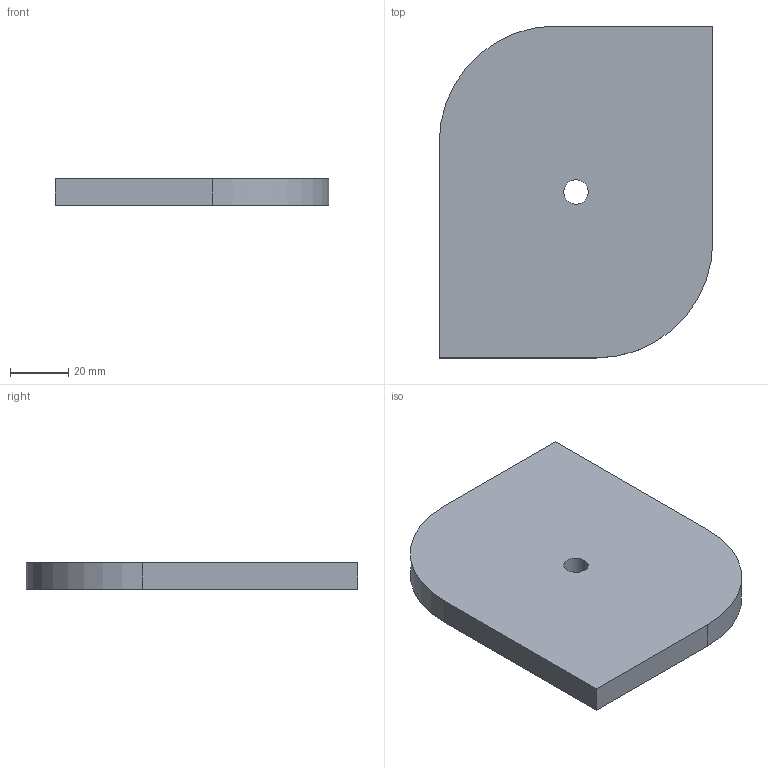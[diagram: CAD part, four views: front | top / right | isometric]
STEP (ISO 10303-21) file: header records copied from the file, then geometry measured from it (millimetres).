
FILE_DESCRIPTION(('CATIA V5 STEP Exchange'),'2;1');
FILE_NAME('C:\_Andres\UNIVERSIDAD\IQS\ASIGNATURAS\DAO\EXF\EXF-15161c\1original\Casals_Vilar_Ej01-plano_v4.stp','2016-03-04T14:59:43+00:00',('none'),('none'),'CATIA Version 5 Release 20 SP 1 (IN-10)','CATIA V5 STEP AP203','none');
FILE_SCHEMA(('CONFIG_CONTROL_DESIGN'));
Length unit declared in the file: millimetre
Products named in the file (1): Casals_Vilar_Ej01-plano_v4
Bounding box: 94 x 114 x 9 mm (x, y, z)
Volume: 89767.6 mm3; surface area: 23620.1 mm2
Topology: 1 solids, 1 shells, 10 faces, 24 edges, 16 vertices
Faces by surface type: plane 6, cylinder 4
Entity records: 333 total; most frequent: CARTESIAN_POINT 51, ORIENTED_EDGE 48, DIRECTION 44, EDGE_CURVE 24, AXIS2_PLACEMENT_3D 19, VECTOR 16, LINE 16, VERTEX_POINT 16
